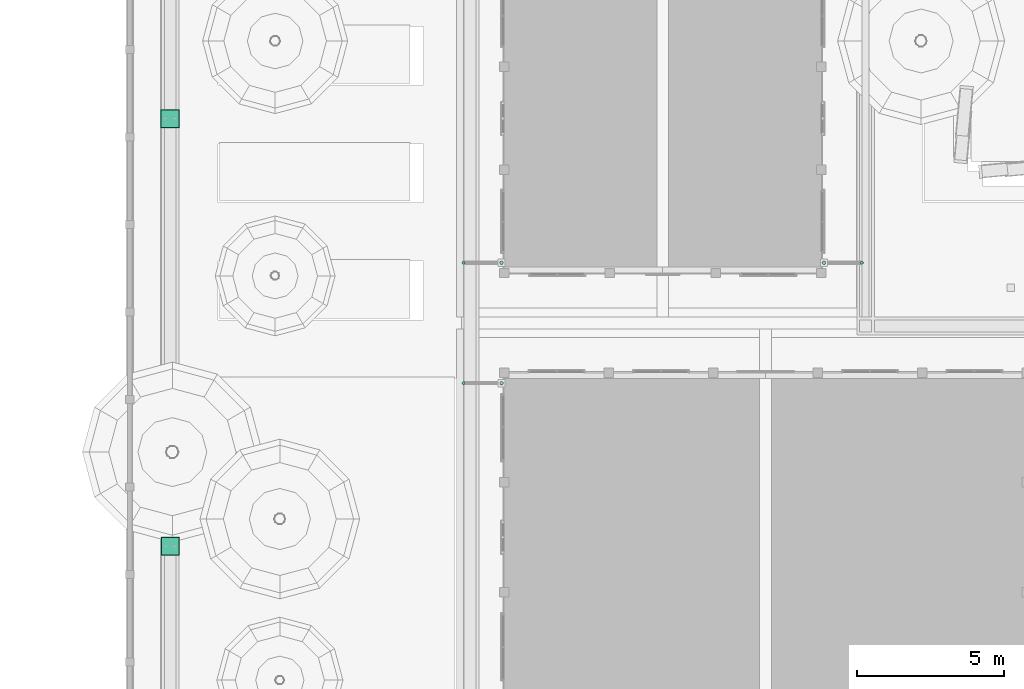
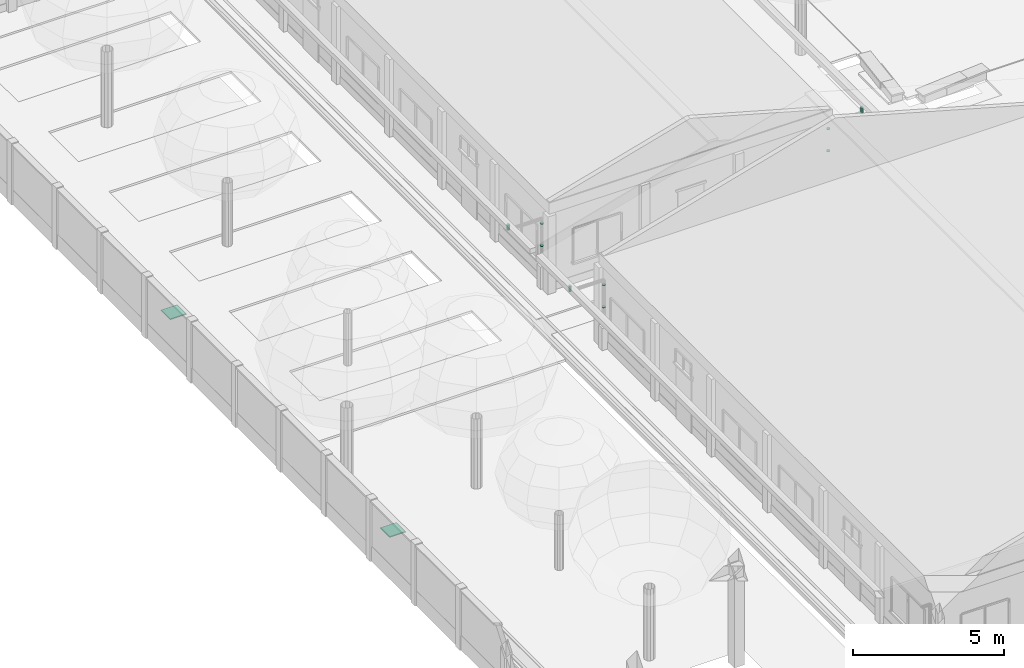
# One storey, part 120 of 177: 9 pipe segments, 4 distribution chamber elements.
"""IFC4 building model written with IfcOpenShell, lengths in metres."""

from ifc_helpers import new_model, si_unit, origin, origin_with_axes, place, context, subcontext, project, spatial, triangles, element, save


model = new_model("IFC4")

# Units and contexts
model_context = context("Model", 3, precision=1e-05, world=origin_with_axes())
body_context = subcontext(model_context, "Body", "Model", "MODEL_VIEW")
ifc_project = project(units=[si_unit("LENGTHUNIT", "METRE"), si_unit("AREAUNIT", "SQUARE_METRE"), si_unit("VOLUMEUNIT", "CUBIC_METRE"), si_unit("PLANEANGLEUNIT", "RADIAN")], contexts=[model_context])

# Site, building, storey
site_placement = place(None, origin_with_axes())
site = spatial("IfcSite", under=ifc_project, at=site_placement, Name="Predio Los Mangos - Morales, San Martín", CompositionType="ELEMENT")
building_placement = place(site_placement, origin())
building = spatial("IfcBuilding", under=site, at=building_placement, Name="Hogar de Refugio Temporal", CompositionType="ELEMENT")
storey_placement = place(building_placement, origin())
storey = spatial("IfcBuildingStorey", under=building, at=storey_placement, Name="NIVEL 1 (NPT +0.00)", CompositionType="ELEMENT", Elevation=0.0)

# Pipe segments
pipe_segment_1_placement = place(storey_placement, origin())
element("IfcPipeSegment", 1, at=pipe_segment_1_placement, inside=storey, Name="montante_boquilla", ObjectType="Montante PVC 4\"", PredefinedType="RIGIDSEGMENT", context=body_context, shape_type="Tessellation", body=[
    triangles([(12.42, 48.405, 3.13), (12.42, 48.405, 2.91), (12.3925, 48.3976, 3.13), (12.3925, 48.3976, 2.91), (12.3724, 48.3775, 3.13), (12.3724, 48.3775, 2.91), (12.365, 48.35, 3.13), (12.365, 48.35, 2.91), (12.3724, 48.3225, 3.13), (12.3724, 48.3225, 2.91), (12.3925, 48.3024, 3.13), (12.3925, 48.3024, 2.91), (12.42, 48.295, 3.13), (12.42, 48.295, 2.91), (12.4475, 48.3024, 3.13), (12.4475, 48.3024, 2.91), (12.4676, 48.3225, 3.13), (12.4676, 48.3225, 2.91), (12.475, 48.35, 3.13), (12.475, 48.35, 2.91), (12.4676, 48.3775, 3.13), (12.4676, 48.3775, 2.91), (12.4475, 48.3976, 3.13), (12.4475, 48.3976, 2.91)], [[1, 2, 4], [1, 4, 3], [3, 4, 6], [3, 6, 5], [5, 6, 8], [5, 8, 7], [7, 8, 10], [7, 10, 9], [9, 10, 12], [9, 12, 11], [11, 12, 14], [11, 14, 13], [13, 14, 16], [13, 16, 15], [15, 16, 18], [15, 18, 17], [17, 18, 20], [17, 20, 19], [19, 20, 22], [19, 22, 21], [6, 4, 2], [2, 24, 22], [22, 20, 18], [18, 16, 14], [14, 12, 10], [10, 8, 6], [6, 2, 22], [22, 18, 14], [14, 10, 6], [22, 14, 6], [21, 22, 24], [21, 24, 23], [23, 24, 2], [23, 2, 1], [23, 1, 3], [3, 5, 7], [7, 9, 11], [11, 13, 15], [15, 17, 19], [19, 21, 23], [23, 3, 7], [7, 11, 15], [15, 19, 23], [7, 15, 23]]),
])
pipe_segment_2_placement = place(storey_placement, origin())
element("IfcPipeSegment", 2, at=pipe_segment_2_placement, inside=storey, Name="montante_abrazadera", ObjectType="Montante PVC 4\"", PredefinedType="RIGIDSEGMENT", context=body_context, shape_type="Tessellation", body=[
    triangles([(13.71, 48.288, 1.8), (13.71, 48.288, 1.84), (13.679, 48.2963, 1.8), (13.679, 48.2963, 1.84), (13.6563, 48.319, 1.8), (13.6563, 48.319, 1.84), (13.648, 48.35, 1.8), (13.648, 48.35, 1.84), (13.6563, 48.381, 1.8), (13.6563, 48.381, 1.84), (13.679, 48.4037, 1.8), (13.679, 48.4037, 1.84), (13.71, 48.412, 1.8), (13.71, 48.412, 1.84), (13.741, 48.4037, 1.8), (13.741, 48.4037, 1.84), (13.7637, 48.381, 1.8), (13.7637, 48.381, 1.84), (13.772, 48.35, 1.8), (13.772, 48.35, 1.84), (13.7637, 48.319, 1.8), (13.7637, 48.319, 1.84), (13.741, 48.2963, 1.8), (13.741, 48.2963, 1.84)], [[1, 2, 4], [1, 4, 3], [3, 4, 6], [3, 6, 5], [5, 6, 8], [5, 8, 7], [7, 8, 10], [7, 10, 9], [9, 10, 12], [9, 12, 11], [11, 12, 14], [11, 14, 13], [13, 14, 16], [13, 16, 15], [15, 16, 18], [15, 18, 17], [17, 18, 20], [17, 20, 19], [19, 20, 22], [19, 22, 21], [6, 4, 2], [2, 24, 22], [22, 20, 18], [18, 16, 14], [14, 12, 10], [10, 8, 6], [6, 2, 22], [22, 18, 14], [14, 10, 6], [22, 14, 6], [21, 22, 24], [21, 24, 23], [23, 24, 2], [23, 2, 1], [23, 1, 3], [3, 5, 7], [7, 9, 11], [11, 13, 15], [15, 17, 19], [19, 21, 23], [23, 3, 7], [7, 11, 15], [15, 19, 23], [7, 15, 23]]),
])
pipe_segment_3_placement = place(storey_placement, origin())
element("IfcPipeSegment", 3, at=pipe_segment_3_placement, inside=storey, Name="montante_abrazadera", ObjectType="Montante PVC 4\"", PredefinedType="RIGIDSEGMENT", context=body_context, shape_type="Tessellation", body=[
    triangles([(13.71, 48.288, 2.7), (13.71, 48.288, 2.74), (13.679, 48.2963, 2.7), (13.679, 48.2963, 2.74), (13.6563, 48.319, 2.7), (13.6563, 48.319, 2.74), (13.648, 48.35, 2.7), (13.648, 48.35, 2.74), (13.6563, 48.381, 2.7), (13.6563, 48.381, 2.74), (13.679, 48.4037, 2.7), (13.679, 48.4037, 2.74), (13.71, 48.412, 2.7), (13.71, 48.412, 2.74), (13.741, 48.4037, 2.7), (13.741, 48.4037, 2.74), (13.7637, 48.381, 2.7), (13.7637, 48.381, 2.74), (13.772, 48.35, 2.7), (13.772, 48.35, 2.74), (13.7637, 48.319, 2.7), (13.7637, 48.319, 2.74), (13.741, 48.2963, 2.7), (13.741, 48.2963, 2.74)], [[1, 2, 4], [1, 4, 3], [3, 4, 6], [3, 6, 5], [5, 6, 8], [5, 8, 7], [7, 8, 10], [7, 10, 9], [9, 10, 12], [9, 12, 11], [11, 12, 14], [11, 14, 13], [13, 14, 16], [13, 16, 15], [15, 16, 18], [15, 18, 17], [17, 18, 20], [17, 20, 19], [19, 20, 22], [19, 22, 21], [6, 4, 2], [2, 24, 22], [22, 20, 18], [18, 16, 14], [14, 12, 10], [10, 8, 6], [6, 2, 22], [22, 18, 14], [14, 10, 6], [22, 14, 6], [21, 22, 24], [21, 24, 23], [23, 24, 2], [23, 2, 1], [23, 1, 3], [3, 5, 7], [7, 9, 11], [11, 13, 15], [15, 17, 19], [19, 21, 23], [23, 3, 7], [7, 11, 15], [15, 19, 23], [7, 15, 23]]),
])
pipe_segment_4_placement = place(storey_placement, origin())
element("IfcPipeSegment", 4, at=pipe_segment_4_placement, inside=storey, Name="montante_boquilla", ObjectType="Montante PVC 4\"", PredefinedType="RIGIDSEGMENT", context=body_context, shape_type="Tessellation", body=[
    triangles([(12.42, 52.505, 3.13), (12.42, 52.505, 2.91), (12.3925, 52.4976, 3.13), (12.3925, 52.4976, 2.91), (12.3724, 52.4775, 3.13), (12.3724, 52.4775, 2.91), (12.365, 52.45, 3.13), (12.365, 52.45, 2.91), (12.3724, 52.4225, 3.13), (12.3724, 52.4225, 2.91), (12.3925, 52.4024, 3.13), (12.3925, 52.4024, 2.91), (12.42, 52.395, 3.13), (12.42, 52.395, 2.91), (12.4475, 52.4024, 3.13), (12.4475, 52.4024, 2.91), (12.4676, 52.4225, 3.13), (12.4676, 52.4225, 2.91), (12.475, 52.45, 3.13), (12.475, 52.45, 2.91), (12.4676, 52.4775, 3.13), (12.4676, 52.4775, 2.91), (12.4475, 52.4976, 3.13), (12.4475, 52.4976, 2.91)], [[1, 2, 4], [1, 4, 3], [3, 4, 6], [3, 6, 5], [5, 6, 8], [5, 8, 7], [7, 8, 10], [7, 10, 9], [9, 10, 12], [9, 12, 11], [11, 12, 14], [11, 14, 13], [13, 14, 16], [13, 16, 15], [15, 16, 18], [15, 18, 17], [17, 18, 20], [17, 20, 19], [19, 20, 22], [19, 22, 21], [6, 4, 2], [2, 24, 22], [22, 20, 18], [18, 16, 14], [14, 12, 10], [10, 8, 6], [6, 2, 22], [22, 18, 14], [14, 10, 6], [22, 14, 6], [21, 22, 24], [21, 24, 23], [23, 24, 2], [23, 2, 1], [23, 1, 3], [3, 5, 7], [7, 9, 11], [11, 13, 15], [15, 17, 19], [19, 21, 23], [23, 3, 7], [7, 11, 15], [15, 19, 23], [7, 15, 23]]),
])
pipe_segment_5_placement = place(storey_placement, origin())
element("IfcPipeSegment", 5, at=pipe_segment_5_placement, inside=storey, Name="montante_abrazadera", ObjectType="Montante PVC 4\"", PredefinedType="RIGIDSEGMENT", context=body_context, shape_type="Tessellation", body=[
    triangles([(13.71, 52.388, 1.8), (13.71, 52.388, 1.84), (13.679, 52.3963, 1.8), (13.679, 52.3963, 1.84), (13.6563, 52.419, 1.8), (13.6563, 52.419, 1.84), (13.648, 52.45, 1.8), (13.648, 52.45, 1.84), (13.6563, 52.481, 1.8), (13.6563, 52.481, 1.84), (13.679, 52.5037, 1.8), (13.679, 52.5037, 1.84), (13.71, 52.512, 1.8), (13.71, 52.512, 1.84), (13.741, 52.5037, 1.8), (13.741, 52.5037, 1.84), (13.7637, 52.481, 1.8), (13.7637, 52.481, 1.84), (13.772, 52.45, 1.8), (13.772, 52.45, 1.84), (13.7637, 52.419, 1.8), (13.7637, 52.419, 1.84), (13.741, 52.3963, 1.8), (13.741, 52.3963, 1.84)], [[1, 2, 4], [1, 4, 3], [3, 4, 6], [3, 6, 5], [5, 6, 8], [5, 8, 7], [7, 8, 10], [7, 10, 9], [9, 10, 12], [9, 12, 11], [11, 12, 14], [11, 14, 13], [13, 14, 16], [13, 16, 15], [15, 16, 18], [15, 18, 17], [17, 18, 20], [17, 20, 19], [19, 20, 22], [19, 22, 21], [6, 4, 2], [2, 24, 22], [22, 20, 18], [18, 16, 14], [14, 12, 10], [10, 8, 6], [6, 2, 22], [22, 18, 14], [14, 10, 6], [22, 14, 6], [21, 22, 24], [21, 24, 23], [23, 24, 2], [23, 2, 1], [23, 1, 3], [3, 5, 7], [7, 9, 11], [11, 13, 15], [15, 17, 19], [19, 21, 23], [23, 3, 7], [7, 11, 15], [15, 19, 23], [7, 15, 23]]),
])
pipe_segment_6_placement = place(storey_placement, origin())
element("IfcPipeSegment", 6, at=pipe_segment_6_placement, inside=storey, Name="montante_abrazadera", ObjectType="Montante PVC 4\"", PredefinedType="RIGIDSEGMENT", context=body_context, shape_type="Tessellation", body=[
    triangles([(13.71, 52.388, 2.7), (13.71, 52.388, 2.74), (13.679, 52.3963, 2.7), (13.679, 52.3963, 2.74), (13.6563, 52.419, 2.7), (13.6563, 52.419, 2.74), (13.648, 52.45, 2.7), (13.648, 52.45, 2.74), (13.6563, 52.481, 2.7), (13.6563, 52.481, 2.74), (13.679, 52.5037, 2.7), (13.679, 52.5037, 2.74), (13.71, 52.512, 2.7), (13.71, 52.512, 2.74), (13.741, 52.5037, 2.7), (13.741, 52.5037, 2.74), (13.7637, 52.481, 2.7), (13.7637, 52.481, 2.74), (13.772, 52.45, 2.7), (13.772, 52.45, 2.74), (13.7637, 52.419, 2.7), (13.7637, 52.419, 2.74), (13.741, 52.3963, 2.7), (13.741, 52.3963, 2.74)], [[1, 2, 4], [1, 4, 3], [3, 4, 6], [3, 6, 5], [5, 6, 8], [5, 8, 7], [7, 8, 10], [7, 10, 9], [9, 10, 12], [9, 12, 11], [11, 12, 14], [11, 14, 13], [13, 14, 16], [13, 16, 15], [15, 16, 18], [15, 18, 17], [17, 18, 20], [17, 20, 19], [19, 20, 22], [19, 22, 21], [6, 4, 2], [2, 24, 22], [22, 20, 18], [18, 16, 14], [14, 12, 10], [10, 8, 6], [6, 2, 22], [22, 18, 14], [14, 10, 6], [22, 14, 6], [21, 22, 24], [21, 24, 23], [23, 24, 2], [23, 2, 1], [23, 1, 3], [3, 5, 7], [7, 9, 11], [11, 13, 15], [15, 17, 19], [19, 21, 23], [23, 3, 7], [7, 11, 15], [15, 19, 23], [7, 15, 23]]),
])
pipe_segment_7_placement = place(storey_placement, origin())
element("IfcPipeSegment", 7, at=pipe_segment_7_placement, inside=storey, Name="montante_boquilla", ObjectType="Montante PVC 4\"", PredefinedType="RIGIDSEGMENT", context=body_context, shape_type="Tessellation", body=[
    triangles([(25.98, 52.505, 3.13), (25.98, 52.505, 2.91), (25.9525, 52.4976, 3.13), (25.9525, 52.4976, 2.91), (25.9324, 52.4775, 3.13), (25.9324, 52.4775, 2.91), (25.925, 52.45, 3.13), (25.925, 52.45, 2.91), (25.9324, 52.4225, 3.13), (25.9324, 52.4225, 2.91), (25.9525, 52.4024, 3.13), (25.9525, 52.4024, 2.91), (25.98, 52.395, 3.13), (25.98, 52.395, 2.91), (26.0075, 52.4024, 3.13), (26.0075, 52.4024, 2.91), (26.0276, 52.4225, 3.13), (26.0276, 52.4225, 2.91), (26.035, 52.45, 3.13), (26.035, 52.45, 2.91), (26.0276, 52.4775, 3.13), (26.0276, 52.4775, 2.91), (26.0075, 52.4976, 3.13), (26.0075, 52.4976, 2.91)], [[1, 2, 4], [1, 4, 3], [3, 4, 6], [3, 6, 5], [5, 6, 8], [5, 8, 7], [7, 8, 10], [7, 10, 9], [9, 10, 12], [9, 12, 11], [11, 12, 14], [11, 14, 13], [13, 14, 16], [13, 16, 15], [15, 16, 18], [15, 18, 17], [17, 18, 20], [17, 20, 19], [19, 20, 22], [19, 22, 21], [6, 4, 2], [2, 24, 22], [22, 20, 18], [18, 16, 14], [14, 12, 10], [10, 8, 6], [6, 2, 22], [22, 18, 14], [14, 10, 6], [22, 14, 6], [21, 22, 24], [21, 24, 23], [23, 24, 2], [23, 2, 1], [23, 1, 3], [3, 5, 7], [7, 9, 11], [11, 13, 15], [15, 17, 19], [19, 21, 23], [23, 3, 7], [7, 11, 15], [15, 19, 23], [7, 15, 23]]),
])
pipe_segment_8_placement = place(storey_placement, origin())
element("IfcPipeSegment", 8, at=pipe_segment_8_placement, inside=storey, Name="montante_abrazadera", ObjectType="Montante PVC 4\"", PredefinedType="RIGIDSEGMENT", context=body_context, shape_type="Tessellation", body=[
    triangles([(24.69, 52.388, 1.8), (24.69, 52.388, 1.84), (24.659, 52.3963, 1.8), (24.659, 52.3963, 1.84), (24.6363, 52.419, 1.8), (24.6363, 52.419, 1.84), (24.628, 52.45, 1.8), (24.628, 52.45, 1.84), (24.6363, 52.481, 1.8), (24.6363, 52.481, 1.84), (24.659, 52.5037, 1.8), (24.659, 52.5037, 1.84), (24.69, 52.512, 1.8), (24.69, 52.512, 1.84), (24.721, 52.5037, 1.8), (24.721, 52.5037, 1.84), (24.7437, 52.481, 1.8), (24.7437, 52.481, 1.84), (24.752, 52.45, 1.8), (24.752, 52.45, 1.84), (24.7437, 52.419, 1.8), (24.7437, 52.419, 1.84), (24.721, 52.3963, 1.8), (24.721, 52.3963, 1.84)], [[1, 2, 4], [1, 4, 3], [3, 4, 6], [3, 6, 5], [5, 6, 8], [5, 8, 7], [7, 8, 10], [7, 10, 9], [9, 10, 12], [9, 12, 11], [11, 12, 14], [11, 14, 13], [13, 14, 16], [13, 16, 15], [15, 16, 18], [15, 18, 17], [17, 18, 20], [17, 20, 19], [19, 20, 22], [19, 22, 21], [6, 4, 2], [2, 24, 22], [22, 20, 18], [18, 16, 14], [14, 12, 10], [10, 8, 6], [6, 2, 22], [22, 18, 14], [14, 10, 6], [22, 14, 6], [21, 22, 24], [21, 24, 23], [23, 24, 2], [23, 2, 1], [23, 1, 3], [3, 5, 7], [7, 9, 11], [11, 13, 15], [15, 17, 19], [19, 21, 23], [23, 3, 7], [7, 11, 15], [15, 19, 23], [7, 15, 23]]),
])
pipe_segment_9_placement = place(storey_placement, origin())
element("IfcPipeSegment", 9, at=pipe_segment_9_placement, inside=storey, Name="montante_abrazadera", ObjectType="Montante PVC 4\"", PredefinedType="RIGIDSEGMENT", context=body_context, shape_type="Tessellation", body=[
    triangles([(24.69, 52.388, 2.7), (24.69, 52.388, 2.74), (24.659, 52.3963, 2.7), (24.659, 52.3963, 2.74), (24.6363, 52.419, 2.7), (24.6363, 52.419, 2.74), (24.628, 52.45, 2.7), (24.628, 52.45, 2.74), (24.6363, 52.481, 2.7), (24.6363, 52.481, 2.74), (24.659, 52.5037, 2.7), (24.659, 52.5037, 2.74), (24.69, 52.512, 2.7), (24.69, 52.512, 2.74), (24.721, 52.5037, 2.7), (24.721, 52.5037, 2.74), (24.7437, 52.481, 2.7), (24.7437, 52.481, 2.74), (24.752, 52.45, 2.7), (24.752, 52.45, 2.74), (24.7437, 52.419, 2.7), (24.7437, 52.419, 2.74), (24.721, 52.3963, 2.7), (24.721, 52.3963, 2.74)], [[1, 2, 4], [1, 4, 3], [3, 4, 6], [3, 6, 5], [5, 6, 8], [5, 8, 7], [7, 8, 10], [7, 10, 9], [9, 10, 12], [9, 12, 11], [11, 12, 14], [11, 14, 13], [13, 14, 16], [13, 16, 15], [15, 16, 18], [15, 18, 17], [17, 18, 20], [17, 20, 19], [19, 20, 22], [19, 22, 21], [6, 4, 2], [2, 24, 22], [22, 20, 18], [18, 16, 14], [14, 12, 10], [10, 8, 6], [6, 2, 22], [22, 18, 14], [14, 10, 6], [22, 14, 6], [21, 22, 24], [21, 24, 23], [23, 24, 2], [23, 2, 1], [23, 1, 3], [3, 5, 7], [7, 9, 11], [11, 13, 15], [15, 17, 19], [19, 21, 23], [23, 3, 7], [7, 11, 15], [15, 19, 23], [7, 15, 23]]),
])

# Distribution chamber elements
distribution_chamber_element_1_placement = place(storey_placement, origin())
element("IfcDistributionChamberElement", 10, at=distribution_chamber_element_1_placement, inside=storey, Name="tapa_insp_junta", ObjectType="Tapa de inspección", PredefinedType="INSPECTIONCHAMBER", context=body_context, shape_type="Tessellation", body=[
    triangles([(2.098, 57.035, 0.082), (2.738, 57.035, 0.082), (2.738, 57.675, 0.082), (2.098, 57.675, 0.082), (2.098, 57.035, 0.096), (2.738, 57.035, 0.096), (2.738, 57.675, 0.096), (2.098, 57.675, 0.096)], [[1, 4, 3], [1, 3, 2], [5, 6, 7], [5, 7, 8], [1, 2, 6], [1, 6, 5], [2, 3, 7], [2, 7, 6], [3, 4, 8], [3, 8, 7], [4, 1, 5], [4, 5, 8]]),
])
distribution_chamber_element_2_placement = place(storey_placement, origin())
element("IfcDistributionChamberElement", 11, at=distribution_chamber_element_2_placement, inside=storey, Name="tapa_inspeccion", ObjectType="Tapa de inspección", PredefinedType="INSPECTIONCHAMBER", context=body_context, shape_type="Tessellation", body=[
    triangles([(2.118, 57.055, 0.082), (2.718, 57.055, 0.082), (2.718, 57.655, 0.082), (2.118, 57.655, 0.082), (2.118, 57.055, 0.104), (2.718, 57.055, 0.104), (2.718, 57.655, 0.104), (2.118, 57.655, 0.104)], [[1, 4, 3], [1, 3, 2], [5, 6, 7], [5, 7, 8], [1, 2, 6], [1, 6, 5], [2, 3, 7], [2, 7, 6], [3, 4, 8], [3, 8, 7], [4, 1, 5], [4, 5, 8]]),
])
distribution_chamber_element_3_placement = place(storey_placement, origin())
element("IfcDistributionChamberElement", 12, at=distribution_chamber_element_3_placement, inside=storey, Name="tapa_insp_junta", ObjectType="Tapa de inspección", PredefinedType="INSPECTIONCHAMBER", context=body_context, shape_type="Tessellation", body=[
    triangles([(2.106, 42.472, 0.082), (2.746, 42.472, 0.082), (2.746, 43.112, 0.082), (2.106, 43.112, 0.082), (2.106, 42.472, 0.096), (2.746, 42.472, 0.096), (2.746, 43.112, 0.096), (2.106, 43.112, 0.096)], [[1, 4, 3], [1, 3, 2], [5, 6, 7], [5, 7, 8], [1, 2, 6], [1, 6, 5], [2, 3, 7], [2, 7, 6], [3, 4, 8], [3, 8, 7], [4, 1, 5], [4, 5, 8]]),
])
distribution_chamber_element_4_placement = place(storey_placement, origin())
element("IfcDistributionChamberElement", 13, at=distribution_chamber_element_4_placement, inside=storey, Name="tapa_inspeccion", ObjectType="Tapa de inspección", PredefinedType="INSPECTIONCHAMBER", context=body_context, shape_type="Tessellation", body=[
    triangles([(2.126, 42.492, 0.082), (2.726, 42.492, 0.082), (2.726, 43.092, 0.082), (2.126, 43.092, 0.082), (2.126, 42.492, 0.104), (2.726, 42.492, 0.104), (2.726, 43.092, 0.104), (2.126, 43.092, 0.104)], [[1, 4, 3], [1, 3, 2], [5, 6, 7], [5, 7, 8], [1, 2, 6], [1, 6, 5], [2, 3, 7], [2, 7, 6], [3, 4, 8], [3, 8, 7], [4, 1, 5], [4, 5, 8]]),
])

save(model, "model.ifc")
